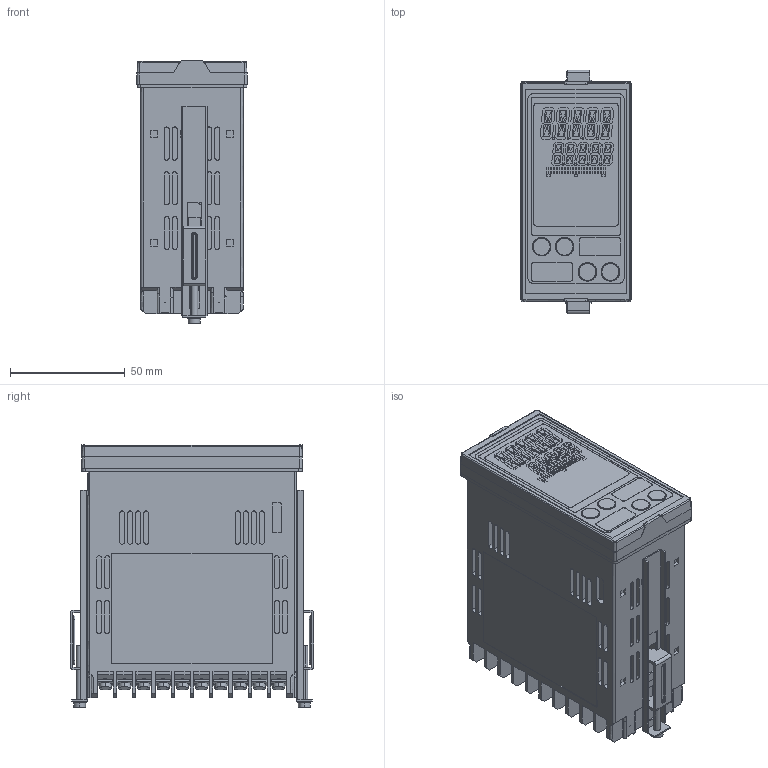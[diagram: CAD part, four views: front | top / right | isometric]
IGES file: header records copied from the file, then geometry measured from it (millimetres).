
Start section: SolidWorks IGES file using analytic representation for surfaces
Global section: file name: C:\Users\kawanishi.SHINKO-TECHNOS\かわにし\3D データ\AER\HP_3D\AER_solidworks\AS_AER_200502.IGS; native system: SolidWorks 2018; preprocessor: SolidWorks 2018; author: kawanishi; date: 200430.105351; units: millimetre
Bounding box: 48 x 106.2 x 114.4 mm (x, y, z)
Surface area: 61602.4 mm2 (no closed solid volume)
Topology: 0 solids, 0 shells, 2202 faces, 18366 edges, 18366 vertices
Faces by surface type: bspline 1818, revolution 384
